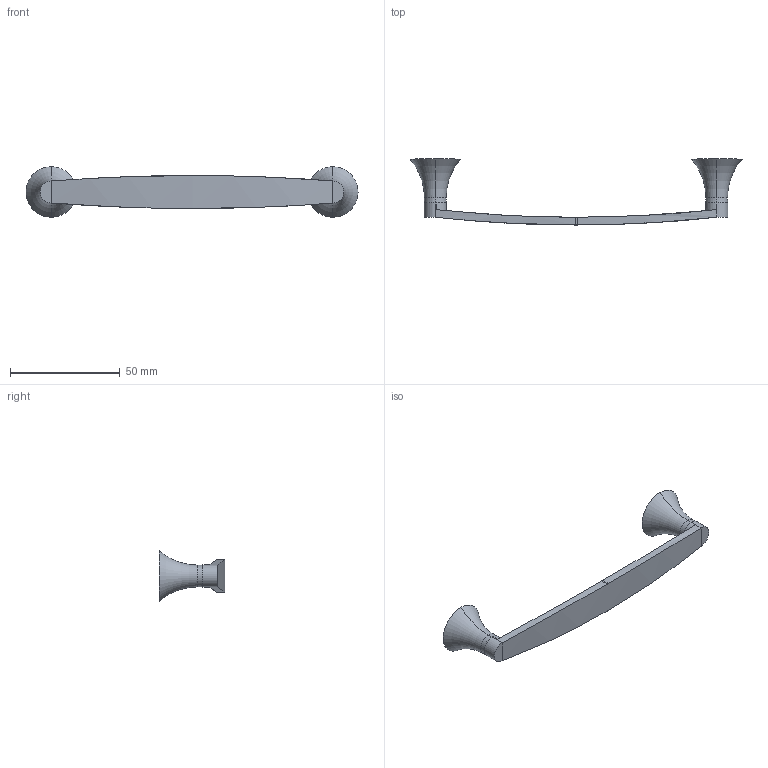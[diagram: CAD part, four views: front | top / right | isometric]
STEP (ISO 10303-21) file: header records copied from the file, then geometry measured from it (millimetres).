
FILE_DESCRIPTION( ( '' ), '1' );
FILE_NAME( 'D:/1.AUTOCAD EXPORT/Group 10/sheet_10_1/115279.stp', '2013-10-21T08:22:40', ( '' ), ( '' ), ' ', ' ', ' ' );
FILE_SCHEMA( ( 'automotive_design' ) );
Length unit declared in the file: millimetre
Products named in the file (1): 1
Bounding box: 151 x 30 x 23 mm (x, y, z)
Volume: 12747.5 mm3; surface area: 7538.9 mm2
Topology: 1 solids, 1 shells, 33 faces, 73 edges, 44 vertices
Faces by surface type: cylinder 14, plane 11, torus 8
Entity records: 1906 total; most frequent: CARTESIAN_POINT 290, DIRECTION 170, STYLED_ITEM 151, PRESENTATION_STYLE_ASSIGNMENT 151, COLOUR_RGB 151, ORIENTED_EDGE 146, EDGE_CURVE 73, AXIS2_PLACEMENT_3D 73
